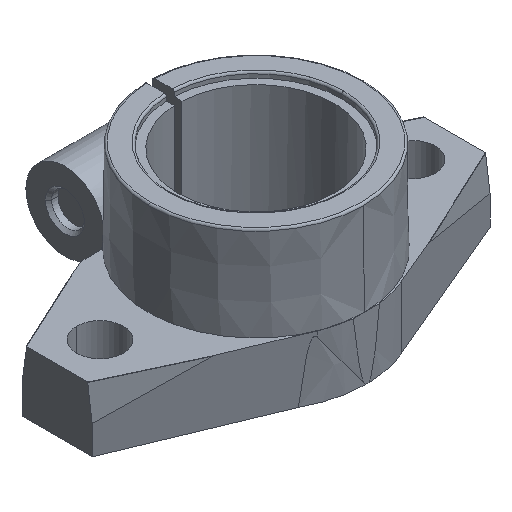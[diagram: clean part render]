
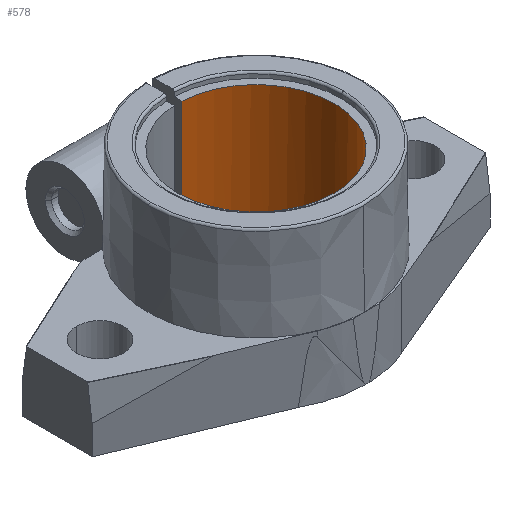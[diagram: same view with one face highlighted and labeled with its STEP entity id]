
A CAD part, isometric view. The second image highlights one B-rep face of the part: STEP entity #578.
In plain terms, the highlighted cylindrical face has radius 20 mm (diameter 40 mm), a partial arc.
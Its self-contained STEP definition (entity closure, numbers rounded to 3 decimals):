
#77 = DIRECTION ( 'NONE',  ( 0., 1., 0. ) ) ;
#123 = CARTESIAN_POINT ( 'NONE',  ( 1., 19.975, 38.5 ) ) ;
#214 = DIRECTION ( 'NONE',  ( 0., -1., 0. ) ) ;
#221 = ORIENTED_EDGE ( 'NONE', *, *, #682, .T. ) ;
#270 = VERTEX_POINT ( 'NONE', #667 ) ;
#302 = VERTEX_POINT ( 'NONE', #470 ) ;
#335 = CARTESIAN_POINT ( 'NONE',  ( 0., -20., 38.5 ) ) ;
#381 = CYLINDRICAL_SURFACE ( 'NONE', #2285, 20. ) ;
#383 = EDGE_CURVE ( 'NONE', #854, #551, #2052, .T. ) ;
#436 = AXIS2_PLACEMENT_3D ( 'NONE', #1601, #1565, #1822 ) ;
#466 = ORIENTED_EDGE ( 'NONE', *, *, #1570, .F. ) ;
#470 = CARTESIAN_POINT ( 'NONE',  ( 1., 19.975, 0.5 ) ) ;
#551 = VERTEX_POINT ( 'NONE', #123 ) ;
#578 = ADVANCED_FACE ( 'NONE', ( #1220 ), #381, .F. ) ;
#641 = DIRECTION ( 'NONE',  ( 1., 0., 0. ) ) ;
#667 = CARTESIAN_POINT ( 'NONE',  ( 0., -20., 0.5 ) ) ;
#682 = EDGE_CURVE ( 'NONE', #302, #2237, #1986, .T. ) ;
#712 = DIRECTION ( 'NONE',  ( 0., 0., -1. ) ) ;
#777 = AXIS2_PLACEMENT_3D ( 'NONE', #1414, #2068, #77 ) ;
#854 = VERTEX_POINT ( 'NONE', #335 ) ;
#1220 = FACE_OUTER_BOUND ( 'NONE', #2293, .T. ) ;
#1240 = VECTOR ( 'NONE', #712, 1000. ) ;
#1246 = CIRCLE ( 'NONE', #1249, 20. ) ;
#1249 = AXIS2_PLACEMENT_3D ( 'NONE', #1782, #2231, #641 ) ;
#1414 = CARTESIAN_POINT ( 'NONE',  ( 0., 0., 38.5 ) ) ;
#1565 = DIRECTION ( 'NONE',  ( 0., 0., -1. ) ) ;
#1570 = EDGE_CURVE ( 'NONE', #854, #270, #2714, .T. ) ;
#1601 = CARTESIAN_POINT ( 'NONE',  ( 0., 0., 0.5 ) ) ;
#1685 = EDGE_CURVE ( 'NONE', #302, #551, #2824, .T. ) ;
#1733 = DIRECTION ( 'NONE',  ( 0., 0., -1. ) ) ;
#1757 = VECTOR ( 'NONE', #2614, 1000. ) ;
#1764 = ORIENTED_EDGE ( 'NONE', *, *, #2430, .T. ) ;
#1782 = CARTESIAN_POINT ( 'NONE',  ( 0., 0., 0.5 ) ) ;
#1822 = DIRECTION ( 'NONE',  ( 1., 0., 0. ) ) ;
#1986 = CIRCLE ( 'NONE', #436, 20. ) ;
#2052 = CIRCLE ( 'NONE', #777, 20. ) ;
#2068 = DIRECTION ( 'NONE',  ( 0., 0., 1. ) ) ;
#2176 = CARTESIAN_POINT ( 'NONE',  ( 1., 19.975, 19.25 ) ) ;
#2219 = CARTESIAN_POINT ( 'NONE',  ( 0., 0., 19.25 ) ) ;
#2231 = DIRECTION ( 'NONE',  ( 0., 0., -1. ) ) ;
#2237 = VERTEX_POINT ( 'NONE', #2815 ) ;
#2285 = AXIS2_PLACEMENT_3D ( 'NONE', #2219, #1733, #214 ) ;
#2293 = EDGE_LOOP ( 'NONE', ( #466, #2446, #2691, #221, #1764 ) ) ;
#2430 = EDGE_CURVE ( 'NONE', #2237, #270, #1246, .T. ) ;
#2446 = ORIENTED_EDGE ( 'NONE', *, *, #383, .T. ) ;
#2614 = DIRECTION ( 'NONE',  ( 0., 0., 1. ) ) ;
#2691 = ORIENTED_EDGE ( 'NONE', *, *, #1685, .F. ) ;
#2714 = LINE ( 'NONE', #2772, #1240 ) ;
#2772 = CARTESIAN_POINT ( 'NONE',  ( 0., -20., 19.25 ) ) ;
#2815 = CARTESIAN_POINT ( 'NONE',  ( 20., 0., 0.5 ) ) ;
#2824 = LINE ( 'NONE', #2176, #1757 ) ;
